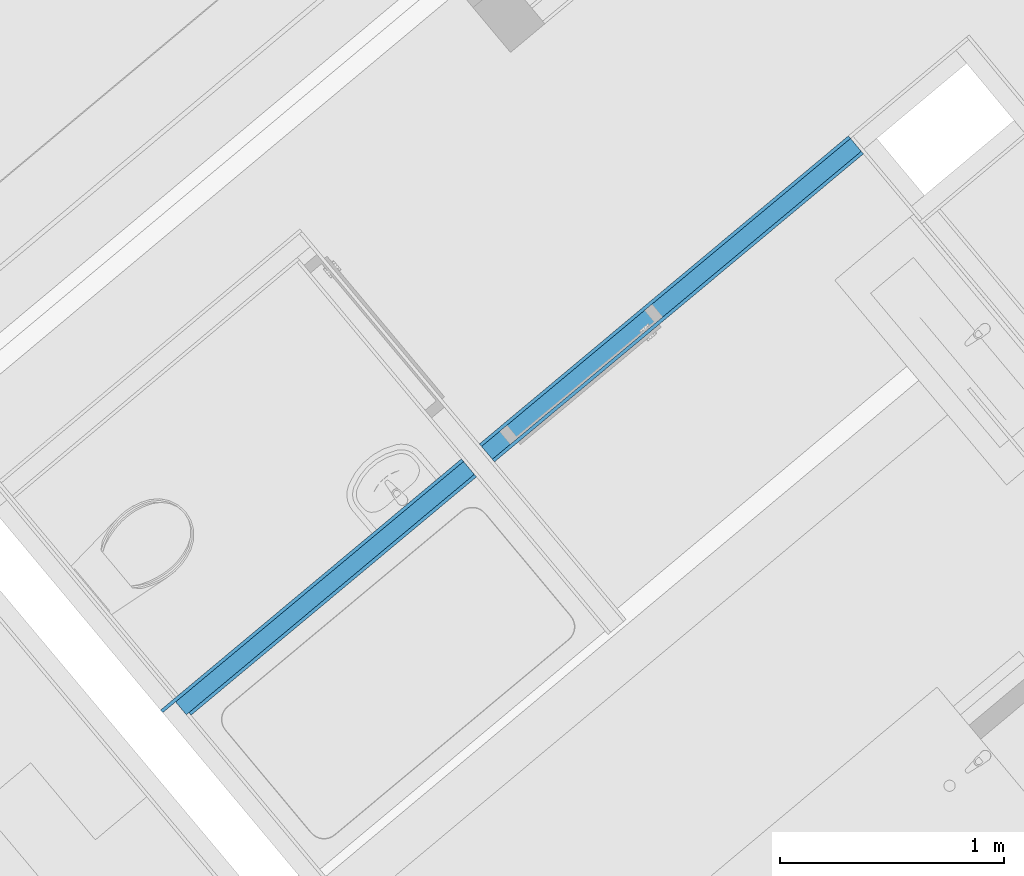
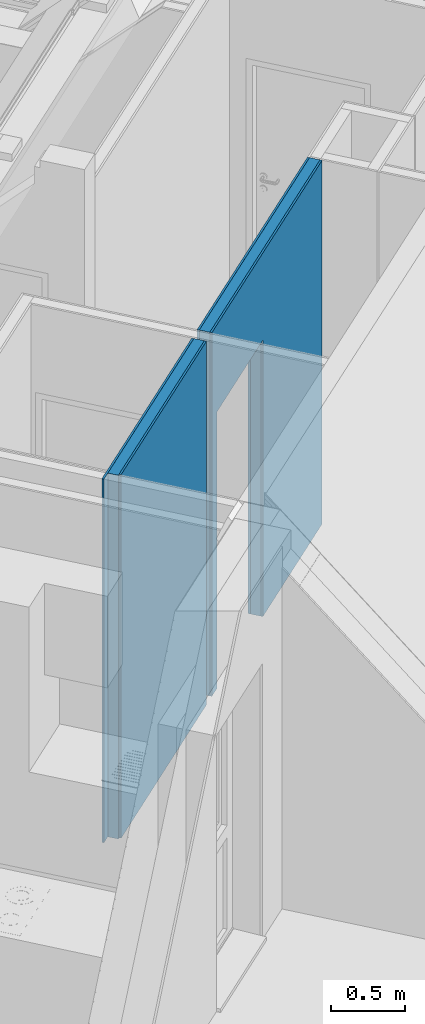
# One storey, part 7 of 47: 3 building element parts, 1 opening, 1 element without a shape of its own.
"""IFC4 building model written with IfcOpenShell, lengths in metres."""

from ifc_helpers import new_model, entity, si_unit, converted_unit, derived_unit, direction, frame, origin_with_axes, place, context, subcontext, project, spatial, polygons, material, type_object, element, aggregate, save


model = new_model("IFC4")

# Units and contexts
model_context = context("Model", 3, precision=1e-05, world=origin_with_axes(), true_north=direction((0.0, 1.0)))
body_context = subcontext(model_context, "Body", "Model", "MODEL_VIEW")
ifc_project = project(units=[si_unit("LENGTHUNIT", "METRE"), si_unit("AREAUNIT", "SQUARE_METRE"), si_unit("VOLUMEUNIT", "CUBIC_METRE"), converted_unit("PLANEANGLEUNIT", "DEGREE", entity("IfcPlaneAngleMeasure", 0.0174532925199), si_unit("PLANEANGLEUNIT", "RADIAN"), dimensions=[0, 0, 0, 0, 0, 0, 0]), converted_unit("TIMEUNIT", "Year", entity("IfcTimeMeasure", 31556926.0), si_unit("TIMEUNIT", "SECOND"), dimensions=[0, 0, 1, 0, 0, 0, 0]), si_unit("MASSUNIT", "GRAM", prefix="KILO"), si_unit("THERMODYNAMICTEMPERATUREUNIT", "DEGREE_CELSIUS"), si_unit("LUMINOUSINTENSITYUNIT", "LUMEN"), si_unit("ENERGYUNIT", "JOULE", prefix="MEGA"), derived_unit("THERMALCONDUCTANCEUNIT", [(si_unit("POWERUNIT", "WATT"), 1), (si_unit("LENGTHUNIT", "METRE"), -1), (si_unit("THERMODYNAMICTEMPERATUREUNIT", "KELVIN"), -1)]), derived_unit("SPECIFICHEATCAPACITYUNIT", [(si_unit("ENERGYUNIT", "JOULE"), 1), (si_unit("MASSUNIT", "GRAM", prefix="KILO"), -1), (si_unit("THERMODYNAMICTEMPERATUREUNIT", "KELVIN"), -1)]), derived_unit("MASSDENSITYUNIT", [(si_unit("MASSUNIT", "GRAM", prefix="KILO"), 1), (si_unit("VOLUMEUNIT", "CUBIC_METRE"), -1)])], contexts=[model_context])

# Site, building, storey
site_placement = place(None, frame((-0.00153261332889, -0.00661245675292, 0.0), z_axis=(0.0, 0.0, 1.0), x_axis=(1.0, 0.0, 0.0)))
site = spatial("IfcSite", under=ifc_project, at=site_placement, Name="Site", CompositionType="ELEMENT")
building_placement = place(site_placement, origin_with_axes())
building = spatial("IfcBuilding", under=site, at=building_placement, Name="Building", CompositionType="ELEMENT")
storey_placement = place(building_placement, frame((0.0, 0.0, 8.66), z_axis=(0.0, 0.0, 1.0), x_axis=(1.0, 0.0, 0.0)))
storey = spatial("IfcBuildingStorey", under=building, at=storey_placement, Name="DG2", CompositionType="ELEMENT", Elevation=8.66)

# Wall, opening, building element parts
wall_type = type_object("IfcWallType", Name="IW LB 01 Leichtbautrennwand einfach 10,5 cm 105", PredefinedType="NOTDEFINED")
wall_placement = place(storey_placement, frame((2.09467668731, 18.9197573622, 0.0), z_axis=(0.0, 0.0, 1.0), x_axis=(0.76764928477, 0.640870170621, 0.0)))
wall = element("IfcWall", 1, at=wall_placement, inside=storey, type_object=wall_type, Name="Wand-012", PredefinedType="NOTDEFINED")
opening_placement = place(wall_placement, frame((2.31712158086, 0.0, 0.22), z_axis=(0.0, 0.0, 1.0), x_axis=(1.0, 0.0, 0.0)))
element("IfcOpeningElement", 2, at=opening_placement, cuts=wall, Name="Tür-020", context=body_context, identifier="Reference", shape_type="Tessellation", body=[
    polygons([(0.445, 2.07790048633, 2.045), (0.445, 2.07790048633, -0.22), (-0.445, 2.07790048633, -0.22), (-0.445, 2.07790048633, 2.045), (0.445, -1.97290048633, 2.045), (0.445, -1.97290048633, -0.22), (-0.445, -1.97290048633, -0.22), (-0.445, -1.97290048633, 2.045)], [[[1, 2, 3, 4]], [[5, 6, 2, 1]], [[6, 7, 3, 2]], [[7, 8, 4, 3]], [[8, 5, 1, 4]], [[7, 6, 5, 8]]], closed=True),
])
ifc_material_1 = material(Name="Gipskarton")
building_element_part_1_placement = place(wall_placement, origin_with_axes())
building_element_part_1 = element("IfcBuildingElementPart", 3, at=building_element_part_1_placement, material=ifc_material_1, Name="Gipskarton", PredefinedType="NOTDEFINED", context=body_context, shape_type="Tessellation", body=[
    polygons([(1.87212158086, 0.09, 0.22), (1.87212158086, 0.09, 2.265), (2.76212158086, 0.09, 2.265), (2.76212158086, 0.09, 0.22), (2.76212157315, 0.09, 0.0), (3.91818514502, 0.09, 0.0), (3.91818514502, 0.09, 2.98), (1.76811380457, 0.09, 2.98), (1.76811380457, 0.09, 0.0), (1.87212158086, 0.09, 0.0), (1.87212158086, 0.104999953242, 0.22), (1.87212158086, 0.104999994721, 2.265), (2.76212158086, 0.104999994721, 2.265), (2.76212158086, 0.104999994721, 0.22), (2.76212157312, 0.104999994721, 0.0), (3.91817851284, 0.105, 0.0), (3.91817851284, 0.105, 2.98), (1.76810699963, 0.105, 2.98), (1.76810699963, 0.105, 0.0), (1.87212158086, 0.104999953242, 0.0)], [[[1, 2, 3, 4, 5, 6, 7, 8, 9, 10]], [[2, 1, 11, 12]], [[3, 2, 12, 13]], [[4, 3, 13, 14]], [[4, 14, 15, 5]], [[15, 16, 6, 5]], [[16, 17, 7, 6]], [[17, 18, 8, 7]], [[19, 9, 8, 18]], [[10, 9, 19, 20]], [[11, 1, 10, 20]], [[12, 11, 20, 19, 18, 17, 16, 15, 14, 13]]], closed=True),
    polygons([(1.66311379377, 0.09, 0.0), (-0.0900398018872, 0.09, 0.0), (-0.0900464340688, 0.105, 0.0), (1.66310698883, 0.105, 0.0), (1.66311379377, 0.09, 2.98), (-0.0900398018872, 0.09, 2.98), (-0.0900464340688, 0.105, 2.98), (1.66310698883, 0.105, 2.98)], [[[1, 2, 3, 4]], [[5, 6, 2, 1]], [[3, 2, 6, 7]], [[4, 3, 7, 8]], [[4, 8, 5, 1]], [[8, 7, 6, 5]]], closed=True),
])
ifc_material_2 = material(Name="Mineralwolle weich")
building_element_part_2_placement = place(wall_placement, origin_with_axes())
building_element_part_2 = element("IfcBuildingElementPart", 4, at=building_element_part_2_placement, material=ifc_material_2, Name="Mineralwolle weich", PredefinedType="NOTDEFINED", context=body_context, shape_type="Tessellation", body=[
    polygons([(1.87212158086, 0.015, 0.22), (1.87212158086, 0.015, 2.265), (2.76212158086, 0.015, 2.265), (2.76212158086, 0.015, 0.22), (2.7621215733, 0.015, 0.0), (3.91821830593, 0.015, 0.0), (3.91821830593, 0.015, 2.98), (1.76814782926, 0.015, 2.98), (1.76814782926, 0.015, 0.0), (1.87212158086, 0.015, 0.0), (1.87212158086, 0.09, 0.22), (1.87212158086, 0.09, 2.265), (2.76212158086, 0.09, 2.265), (2.76212158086, 0.09, 0.22), (2.76212157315, 0.09, 0.0), (3.91818514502, 0.09, 0.0), (3.91818514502, 0.09, 2.98), (1.76811380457, 0.09, 2.98), (1.76811380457, 0.09, 0.0), (1.87212158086, 0.09, 0.0)], [[[1, 2, 3, 4, 5, 6, 7, 8, 9, 10]], [[2, 1, 11, 12]], [[3, 2, 12, 13]], [[4, 3, 13, 14]], [[4, 14, 15, 5]], [[15, 16, 6, 5]], [[16, 17, 7, 6]], [[17, 18, 8, 7]], [[19, 9, 8, 18]], [[10, 9, 19, 20]], [[11, 1, 10, 20]], [[12, 11, 20, 19, 18, 17, 16, 15, 14, 13]]], closed=True),
    polygons([(1.66314781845, 0.015, 0.0), (-0.0150066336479, 0.015, 0.0), (-0.0150397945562, 0.09, 0.0), (1.66311379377, 0.09, 0.0), (1.66314781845, 0.015, 2.98), (-0.0150066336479, 0.015, 2.98), (-0.0150397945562, 0.09, 2.98), (1.66311379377, 0.09, 2.98)], [[[1, 2, 3, 4]], [[5, 6, 2, 1]], [[3, 2, 6, 7]], [[4, 3, 7, 8]], [[4, 8, 5, 1]], [[8, 7, 6, 5]]], closed=True),
])
building_element_part_3_placement = place(wall_placement, origin_with_axes())
building_element_part_3 = element("IfcBuildingElementPart", 5, at=building_element_part_3_placement, material=ifc_material_1, Name="Gipskarton", PredefinedType="NOTDEFINED", context=body_context, shape_type="Tessellation", body=[
    polygons([(1.87212158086, 0.0, 0.22), (1.87212158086, 0.0, 2.265), (2.76212158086, 0.0, 2.265), (2.76212158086, 0.0, 0.22), (2.76212157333, 0.0, 0.0), (3.91822493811, 0.0, 0.0), (3.91822493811, 0.0, 2.98), (1.76815463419, 0.0, 2.98), (1.76815463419, 0.0, 0.0), (1.87212158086, 0.0, 0.0), (1.87212158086, 0.015, 0.22), (1.87212158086, 0.015, 2.265), (2.76212158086, 0.015, 2.265), (2.76212158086, 0.015, 0.22), (2.7621215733, 0.015, 0.0), (3.91821830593, 0.015, 0.0), (3.91821830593, 0.015, 2.98), (1.76814782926, 0.015, 2.98), (1.76814782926, 0.015, 0.0), (1.87212158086, 0.015, 0.0)], [[[1, 2, 3, 4, 5, 6, 7, 8, 9, 10]], [[2, 1, 11, 12]], [[3, 2, 12, 13]], [[4, 3, 13, 14]], [[4, 14, 15, 5]], [[15, 16, 6, 5]], [[16, 17, 7, 6]], [[17, 18, 8, 7]], [[19, 9, 8, 18]], [[10, 9, 19, 20]], [[11, 1, 10, 20]], [[12, 11, 20, 19, 18, 17, 16, 15, 14, 13]]], closed=True),
    polygons([(1.66315462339, 0.0, 0.0), (0.0, 0.0, 0.0), (-6.63218166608e-06, 0.015, 0.0), (1.66314781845, 0.015, 0.0), (1.66315462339, 0.0, 2.98), (0.0, 0.0, 2.98), (-6.63218166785e-06, 0.015, 2.98), (1.66314781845, 0.015, 2.98)], [[[1, 2, 3, 4]], [[5, 6, 2, 1]], [[3, 2, 6, 7]], [[4, 3, 7, 8]], [[4, 8, 5, 1]], [[8, 7, 6, 5]]], closed=True),
])
aggregate(wall, [building_element_part_1, building_element_part_2, building_element_part_3])

save(model, "model.ifc")
